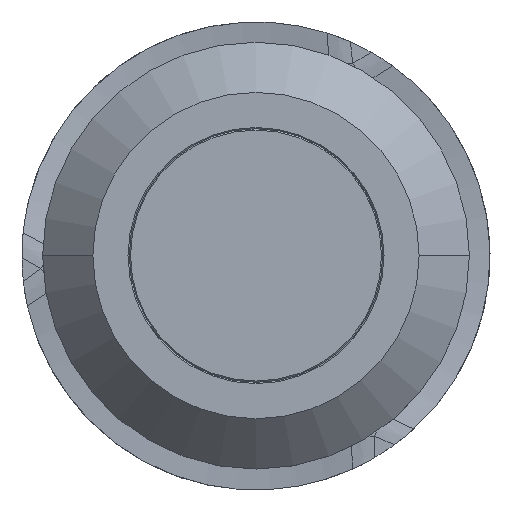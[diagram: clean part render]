
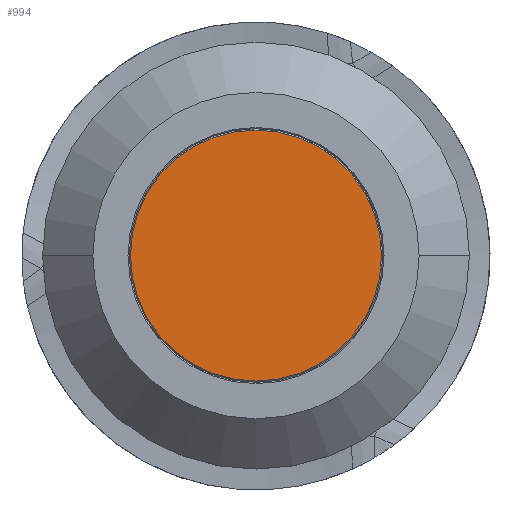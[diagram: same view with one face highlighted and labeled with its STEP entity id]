
A CAD part, top view. The second image highlights one B-rep face of the part: STEP entity #994.
In plain terms, the highlighted planar face has unit normal (0, 0, 1).
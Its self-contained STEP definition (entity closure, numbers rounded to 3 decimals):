
#207 = AXIS2_PLACEMENT_3D ( 'NONE', #5919, #4174, #9698 ) ;
#208 = CARTESIAN_POINT ( 'NONE',  ( -5., 0., 3. ) ) ;
#994 = ADVANCED_FACE ( 'NONE', ( #4369 ), #10187, .T. ) ;
#2156 = CARTESIAN_POINT ( 'NONE',  ( 0., 0., 3. ) ) ;
#2401 = ORIENTED_EDGE ( 'NONE', *, *, #6343, .T. ) ;
#2965 = DIRECTION ( 'NONE',  ( 1., 0., 0. ) ) ;
#3103 = CARTESIAN_POINT ( 'NONE',  ( 0., 0., 3. ) ) ;
#3602 = AXIS2_PLACEMENT_3D ( 'NONE', #3103, #8626, #3904 ) ;
#3690 = CIRCLE ( 'NONE', #5656, 5. ) ;
#3841 = EDGE_LOOP ( 'NONE', ( #6434, #2401 ) ) ;
#3904 = DIRECTION ( 'NONE',  ( 1., 0., 0. ) ) ;
#4174 = DIRECTION ( 'NONE',  ( 0., 0., 1. ) ) ;
#4369 = FACE_OUTER_BOUND ( 'NONE', #3841, .T. ) ;
#5297 = CIRCLE ( 'NONE', #3602, 5. ) ;
#5656 = AXIS2_PLACEMENT_3D ( 'NONE', #2156, #7691, #2965 ) ;
#5919 = CARTESIAN_POINT ( 'NONE',  ( 0., 0., 3. ) ) ;
#6343 = EDGE_CURVE ( 'NONE', #9060, #8312, #5297, .T. ) ;
#6434 = ORIENTED_EDGE ( 'NONE', *, *, #7745, .T. ) ;
#7691 = DIRECTION ( 'NONE',  ( 0., 0., 1. ) ) ;
#7745 = EDGE_CURVE ( 'NONE', #8312, #9060, #3690, .T. ) ;
#8312 = VERTEX_POINT ( 'NONE', #10175 ) ;
#8626 = DIRECTION ( 'NONE',  ( 0., 0., 1. ) ) ;
#9060 = VERTEX_POINT ( 'NONE', #208 ) ;
#9698 = DIRECTION ( 'NONE',  ( 1., 0., 0. ) ) ;
#10175 = CARTESIAN_POINT ( 'NONE',  ( 5., 0., 3. ) ) ;
#10187 = PLANE ( 'NONE',  #207 ) ;
